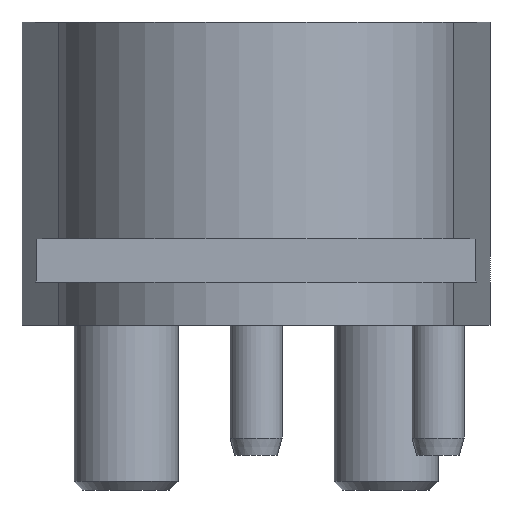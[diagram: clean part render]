
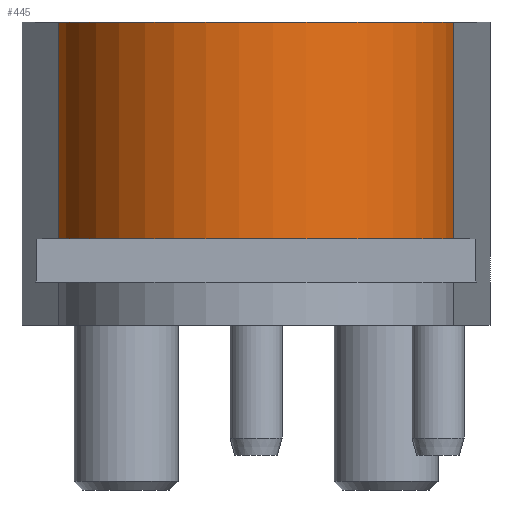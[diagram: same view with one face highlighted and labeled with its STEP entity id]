
A CAD part, left-side view. The second image highlights one B-rep face of the part: STEP entity #445.
In plain terms, the highlighted cylindrical face has radius 23 mm (diameter 46 mm), a partial arc.
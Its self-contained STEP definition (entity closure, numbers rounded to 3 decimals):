
#130=CYLINDRICAL_SURFACE('',#2700,23.);
#289=CIRCLE('',#2698,23.);
#290=CIRCLE('',#2699,23.);
#445=ADVANCED_FACE('',(#663),#130,.T.);
#663=FACE_OUTER_BOUND('',#807,.T.);
#807=EDGE_LOOP('',(#1133,#1134,#1135,#1136));
#1133=ORIENTED_EDGE('',*,*,#1974,.F.);
#1134=ORIENTED_EDGE('',*,*,#1975,.T.);
#1135=ORIENTED_EDGE('',*,*,#1976,.F.);
#1136=ORIENTED_EDGE('',*,*,#1977,.F.);
#1713=VERTEX_POINT('',#3939);
#1714=VERTEX_POINT('',#3940);
#1715=VERTEX_POINT('',#3942);
#1716=VERTEX_POINT('',#3944);
#1974=EDGE_CURVE('',#1713,#1714,#289,.T.);
#1975=EDGE_CURVE('',#1713,#1715,#2288,.T.);
#1976=EDGE_CURVE('',#1716,#1715,#290,.T.);
#1977=EDGE_CURVE('',#1714,#1716,#2289,.T.);
#2288=LINE('',#3941,#2486);
#2289=LINE('',#3945,#2487);
#2486=VECTOR('',#3152,1.);
#2487=VECTOR('',#3155,1.);
#2698=AXIS2_PLACEMENT_3D('',#3938,#3150,#3151);
#2699=AXIS2_PLACEMENT_3D('',#3943,#3153,#3154);
#2700=AXIS2_PLACEMENT_3D('',#3946,#3156,#3157);
#3150=DIRECTION('',(0.,0.,-1.));
#3151=DIRECTION('',(0.,1.,0.));
#3152=DIRECTION('',(0.,0.,1.));
#3153=DIRECTION('',(0.,0.,1.));
#3154=DIRECTION('',(0.,1.,0.));
#3155=DIRECTION('',(0.,0.,1.));
#3156=DIRECTION('',(0.,0.,1.));
#3157=DIRECTION('',(-1.,0.,0.));
#3938=CARTESIAN_POINT('',(0.,0.,10.));
#3939=CARTESIAN_POINT('',(-3.085,-22.792,10.));
#3940=CARTESIAN_POINT('',(-3.085,22.792,10.));
#3941=CARTESIAN_POINT('',(-3.085,-22.792,5.));
#3942=CARTESIAN_POINT('',(-3.085,-22.792,35.));
#3943=CARTESIAN_POINT('',(0.,0.,35.));
#3944=CARTESIAN_POINT('',(-3.085,22.792,35.));
#3945=CARTESIAN_POINT('',(-3.085,22.792,5.));
#3946=CARTESIAN_POINT('',(0.,0.,0.));
